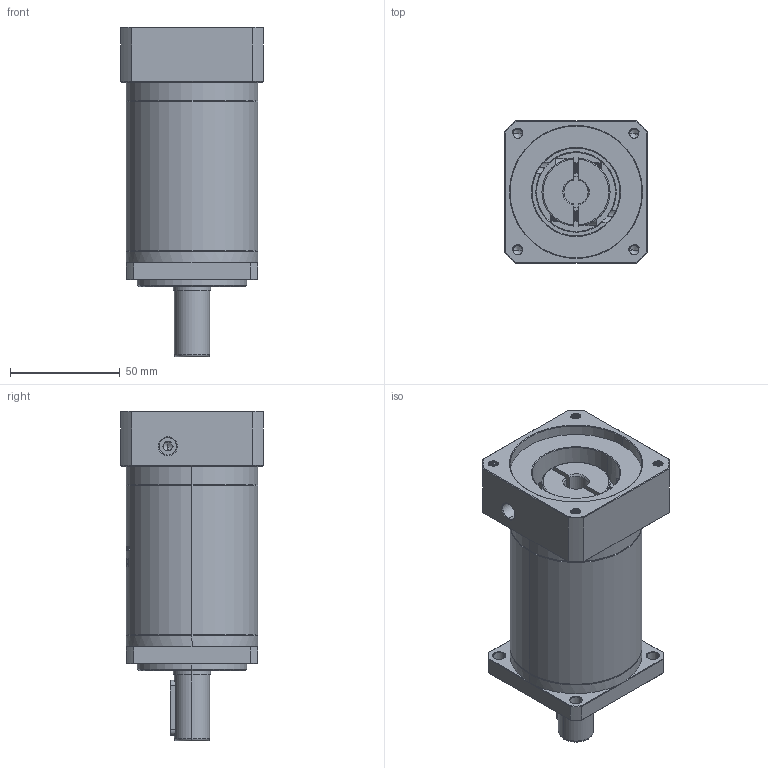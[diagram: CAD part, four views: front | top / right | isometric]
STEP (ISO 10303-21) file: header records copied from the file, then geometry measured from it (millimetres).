
FILE_DESCRIPTION (( 'STEP AP214' ), '1' );
FILE_NAME ('ZF60-D16-L3-11-60-75-M5.STEP', '2022-04-17T11:41:59', ( '' ), ( 'Microsoft' ), 'SwSTEP 2.0', 'SolidWorks 2016', '' );
FILE_SCHEMA (( 'AUTOMOTIVE_DESIGN' ));
Length unit declared in the file: millimetre
Products named in the file (1): ZF60-D16-L3-11-60-75-M5
Bounding box: 65 x 65 x 150 mm (x, y, z)
Volume: 334647.4 mm3; surface area: 53394.3 mm2
Topology: 6 solids, 6 shells, 1661 faces, 4486 edges, 2902 vertices
Faces by surface type: plane 749, cylinder 359, bspline 299, cone 236, torus 18
Entity records: 94533 total; most frequent: CARTESIAN_POINT 38329, ORIENTED_EDGE 8944, DIRECTION 6568, EDGE_CURVE 4472, VERTEX_POINT 2902, VECTOR 2282, LINE 2282, AXIS2_PLACEMENT_3D 2143
